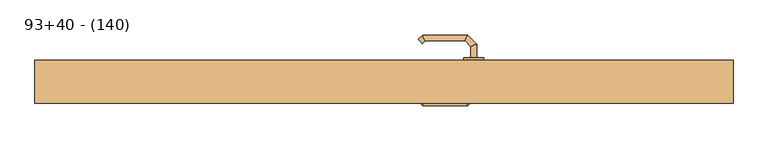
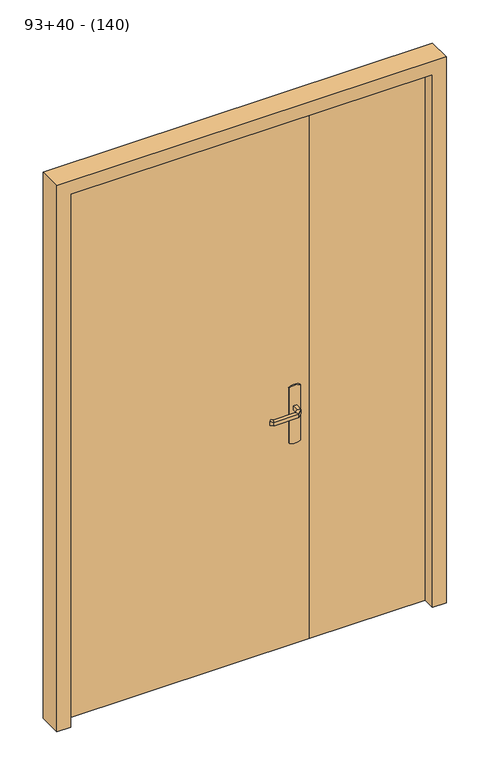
"""IFC4 building model written with IfcOpenShell, lengths in millimetres: door geometry, C&L Ext. Tiercée double vantaux : 93+40 - (140)."""

from ifc_helpers import new_model, si_unit, point, frame, frame_2d, origin, origin_with_axes, place, context, project, spatial, polyline, circle_curve, ellipse_curve, trimmed, segment, composite_curve, outline, extrude, faceted_brep, source, transform, mapped, element, save
from ifc_brep_helpers import plane_surface, cylinder_surface, advanced_brep


def door_93_40_140_18f7f8c6(model_context):
    return source(origin(), model_context, "Body", "SolidModel", [
        advanced_brep(
        [(174.0, 12.0, 893.0), (174.0, 12.0, 907.0), (186.0, 12.0, 907.0), (186.0, 12.0, 893.0), (174.0, -10.4852045, 893.0), (174.0, -10.4852045, 907.0), (186.0, -15.4557673, 907.0), (186.0, -15.4557673, 893.0), (162.5147186, -21.9704859, 893.0), (162.5147186, -21.9704859, 907.0), (167.4852814, -33.9704859, 907.0), (167.4852814, -33.9704859, 893.0), (82.4394977, -21.9704859, 893.0), (82.4394977, -21.9704859, 907.0), (77.468935, -33.9704859, 907.0), (77.468935, -33.9704859, 893.0), (77.1257892, -16.6567774, 893.0), (68.6405078, -25.1420588, 893.0), (68.6405078, -25.1420588, 907.0), (77.1257892, -16.6567774, 907.0)],
        [
            (0, 1),
            (1, 2, circle_curve(frame((180.0, 12.0, 886.9542278), z_axis=(0.0, 1.0, 0.0), x_axis=(1.0, 0.0, 0.0)), 20.9244589)),
            (2, 3),
            (3, 0, circle_curve(frame((180.0, 12.0, 913.0457722), z_axis=(0.0, 1.0, 0.0), x_axis=(1.0, 0.0, 0.0)), 20.9244589)),
            (0, 4),
            (4, 5),
            (5, 1),
            (5, 6, ellipse_curve(frame((180.0, -12.9704859, 886.9542278), z_axis=(0.3826834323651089, 0.9238795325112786, 0.0), x_axis=(-0.9238795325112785, 0.3826834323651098, 0.0)), 22.6484711, 20.9244589)),
            (6, 2),
            (6, 7),
            (7, 3),
            (7, 4, ellipse_curve(frame((180.0, -12.9704859, 913.0457722), z_axis=(0.3826834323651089, 0.9238795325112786, 0.0), x_axis=(-0.9238795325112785, 0.3826834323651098, 0.0)), 22.6484711, 20.9244589)),
            (4, 8),
            (8, 9),
            (9, 5),
            (9, 10, ellipse_curve(frame((165.0, -27.9704859, 886.9542278), z_axis=(0.9238795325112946, 0.38268343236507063, 0.0), x_axis=(-0.3826834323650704, 0.9238795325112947, 0.0)), 22.6484711, 20.9244589)),
            (10, 6),
            (10, 11),
            (11, 7),
            (11, 8, ellipse_curve(frame((165.0, -27.9704859, 913.0457722), z_axis=(0.9238795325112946, 0.38268343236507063, 0.0), x_axis=(-0.3826834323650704, 0.9238795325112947, 0.0)), 22.6484711, 20.9244589)),
            (8, 12),
            (12, 13),
            (13, 9),
            (13, 14, ellipse_curve(frame((79.9542163, -27.9704859, 886.9542278), z_axis=(0.9238795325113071, -0.38268343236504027, 0.0), x_axis=(0.38268343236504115, 0.9238795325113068, 0.0)), 22.6484711, 20.9244589)),
            (14, 10),
            (14, 15),
            (15, 11),
            (15, 12, ellipse_curve(frame((79.9542163, -27.9704859, 913.0457722), z_axis=(0.9238795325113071, -0.38268343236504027, 0.0), x_axis=(0.38268343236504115, 0.9238795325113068, 0.0)), 22.6484711, 20.9244589)),
            (16, 17, circle_curve(frame((72.8831485, -20.8994181, 913.0457722), z_axis=(-0.7071067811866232, 0.7071067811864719, 0.0), x_axis=(-0.7071067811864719, -0.7071067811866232, 0.0)), 20.9244589)),
            (17, 18),
            (18, 19, circle_curve(frame((72.8831485, -20.8994181, 886.9542278), z_axis=(-0.7071067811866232, 0.7071067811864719, 0.0), x_axis=(-0.7071067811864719, -0.7071067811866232, 0.0)), 20.9244589)),
            (19, 16),
            (12, 16),
            (19, 13),
            (18, 14),
            (17, 15),
        ],
        [
            plane_surface(frame((189.2195445, 12.0, 900.0), z_axis=(0.0, 1.0, 0.0), x_axis=(0.0, 0.0, 1.0))),
            plane_surface(frame((174.0, 12.0, 893.0), z_axis=(-1.0, 0.0, 0.0), x_axis=(0.0, -1.0, 0.0))),
            cylinder_surface(frame((180.0, 12.0, 886.9542278), z_axis=(0.0, 1.0, 0.0), x_axis=(1.0, 0.0, 0.0)), 20.9244589),
            plane_surface(frame((186.0, 12.0, 907.0), z_axis=(1.0, 0.0, 0.0), x_axis=(0.0, -1.0, 0.0))),
            cylinder_surface(frame((180.0, 12.0, 913.0457722), z_axis=(0.0, 1.0, 0.0), x_axis=(1.0, 0.0, 0.0)), 20.9244589),
            plane_surface(frame((174.0, -10.4852045, 893.0), z_axis=(-0.707106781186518, 0.707106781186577, 0.0), x_axis=(-0.707106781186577, -0.707106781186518, 0.0))),
            cylinder_surface(frame((180.0, -12.9704859, 886.9542278), z_axis=(0.7071067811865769, 0.7071067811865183, 0.0), x_axis=(0.7071067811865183, -0.7071067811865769, 0.0)), 20.9244589),
            plane_surface(frame((186.0, -15.4557673, 907.0), z_axis=(0.7071067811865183, -0.7071067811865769, 0.0), x_axis=(-0.7071067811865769, -0.7071067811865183, 0.0))),
            cylinder_surface(frame((180.0, -12.9704859, 913.0457722), z_axis=(0.7071067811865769, 0.7071067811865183, 0.0), x_axis=(0.7071067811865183, -0.7071067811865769, 0.0)), 20.9244589),
            plane_surface(frame((162.5147186, -21.9704859, 893.0), z_axis=(0.0, 1.0, 0.0), x_axis=(-1.0, 0.0, 0.0))),
            cylinder_surface(frame((165.0, -27.9704859, 886.9542278), z_axis=(1.0, 0.0, 0.0), x_axis=(0.0, -1.0, 0.0)), 20.9244589),
            plane_surface(frame((167.4852814, -33.9704859, 907.0), z_axis=(0.0, -1.0, 0.0), x_axis=(-1.0, 0.0, 0.0))),
            cylinder_surface(frame((165.0, -27.9704859, 913.0457722), z_axis=(1.0, 0.0, 0.0), x_axis=(0.0, -1.0, 0.0)), 20.9244589),
            plane_surface(frame((72.8831485, -20.8994181, 890.7804555), z_axis=(-0.7071067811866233, 0.7071067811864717, 0.0), x_axis=(-0.7071067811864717, -0.7071067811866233, 0.0))),
            plane_surface(frame((82.4394977, -21.9704859, 893.0), z_axis=(0.7071067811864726, 0.7071067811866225, 0.0), x_axis=(-0.7071067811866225, 0.7071067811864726, 0.0))),
            cylinder_surface(frame((79.9542163, -27.9704859, 886.9542278), z_axis=(0.7071067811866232, -0.7071067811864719, 0.0), x_axis=(-0.7071067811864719, -0.7071067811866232, 0.0)), 20.9244589),
            plane_surface(frame((77.468935, -33.9704859, 907.0), z_axis=(-0.7071067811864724, -0.7071067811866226, 0.0), x_axis=(-0.7071067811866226, 0.7071067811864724, 0.0))),
            cylinder_surface(frame((79.9542163, -27.9704859, 913.0457722), z_axis=(0.7071067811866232, -0.7071067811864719, 0.0), x_axis=(-0.7071067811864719, -0.7071067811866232, 0.0)), 20.9244589),
        ],
        [
            (0, [[1, 2, 3, 4]]),
            (1, [[-1, 5, 6, 7]]),
            (2, [[-2, -7, 8, 9]]),
            (3, [[-3, -9, 10, 11]]),
            (4, [[-4, -11, 12, -5]]),
            (5, [[-6, 13, 14, 15]]),
            (6, [[-8, -15, 16, 17]]),
            (7, [[-10, -17, 18, 19]]),
            (8, [[-12, -19, 20, -13]]),
            (9, [[-14, 21, 22, 23]]),
            (10, [[-16, -23, 24, 25]]),
            (11, [[-18, -25, 26, 27]]),
            (12, [[-20, -27, 28, -21]]),
            (13, [[29, 30, 31, 32]]),
            (14, [[-22, 33, -32, 34]]),
            (15, [[-24, -34, -31, 35]]),
            (16, [[-26, -35, -30, 36]]),
            (17, [[-28, -36, -29, -33]]),
        ],
    ),
        advanced_brep(
        [(186.0, 62.0, 907.0), (174.0, 62.0, 907.0), (174.0, 62.0, 893.0), (186.0, 62.0, 893.0), (186.0, 89.6509507, 907.0), (174.0, 84.680388, 907.0), (174.0, 84.680388, 893.0), (186.0, 89.6509507, 893.0), (167.62279, 108.0281607, 907.0), (162.6522273, 96.0281607, 907.0), (162.6522273, 96.0281607, 893.0), (167.62279, 108.0281607, 893.0), (77.496078, 108.0281607, 907.0), (82.4666408, 96.0281607, 907.0), (82.4666408, 96.0281607, 893.0), (77.496078, 108.0281607, 893.0), (68.6676509, 99.1997336, 907.0), (68.6676509, 99.1997336, 893.0), (77.1529323, 90.7144522, 893.0), (77.1529323, 90.7144522, 907.0)],
        [
            (0, 1, circle_curve(frame((180.0, 62.0, 886.9542278), z_axis=(0.0, -1.0, 0.0), x_axis=(-1.0, 0.0, 0.0)), 20.9244589)),
            (1, 2),
            (2, 3, circle_curve(frame((180.0, 62.0, 913.0457722), z_axis=(0.0, -1.0, 0.0), x_axis=(-1.0, 0.0, 0.0)), 20.9244589)),
            (3, 0),
            (0, 4),
            (4, 5, ellipse_curve(frame((180.0, 87.1656693, 886.9542278), z_axis=(0.3826834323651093, -0.9238795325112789, 0.0), x_axis=(-0.9238795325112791, -0.38268343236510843, 0.0)), 22.6484711, 20.9244589)),
            (5, 1),
            (5, 6),
            (6, 2),
            (6, 7, ellipse_curve(frame((180.0, 87.1656693, 913.0457722), z_axis=(0.3826834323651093, -0.9238795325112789, 0.0), x_axis=(-0.9238795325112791, -0.38268343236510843, 0.0)), 22.6484711, 20.9244589)),
            (7, 3),
            (7, 4),
            (4, 8),
            (8, 9, ellipse_curve(frame((165.1375086, 102.0281607, 886.9542278), z_axis=(0.9238795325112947, -0.38268343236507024, 0.0), x_axis=(-0.3826834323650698, -0.9238795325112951, 0.0)), 22.6484711, 20.9244589)),
            (9, 5),
            (9, 10),
            (10, 6),
            (10, 11, ellipse_curve(frame((165.1375086, 102.0281607, 913.0457722), z_axis=(0.9238795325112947, -0.38268343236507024, 0.0), x_axis=(-0.3826834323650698, -0.9238795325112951, 0.0)), 22.6484711, 20.9244589)),
            (11, 7),
            (11, 8),
            (8, 12),
            (12, 13, ellipse_curve(frame((79.9813594, 102.0281607, 886.9542278), z_axis=(0.9238795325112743, 0.3826834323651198, 0.0), x_axis=(0.38268343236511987, -0.9238795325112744, 0.0)), 22.6484711, 20.9244589)),
            (13, 9),
            (13, 14),
            (14, 10),
            (14, 15, ellipse_curve(frame((79.9813594, 102.0281607, 913.0457722), z_axis=(0.9238795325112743, 0.3826834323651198, 0.0), x_axis=(0.38268343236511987, -0.9238795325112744, 0.0)), 22.6484711, 20.9244589)),
            (15, 11),
            (15, 12),
            (16, 17),
            (17, 18, circle_curve(frame((72.9102916, 94.9570929, 913.0457722), z_axis=(-0.7071067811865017, -0.7071067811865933, 0.0), x_axis=(0.7071067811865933, -0.7071067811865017, 0.0)), 20.9244589)),
            (18, 19),
            (19, 16, circle_curve(frame((72.9102916, 94.9570929, 886.9542278), z_axis=(-0.7071067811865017, -0.7071067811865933, 0.0), x_axis=(0.7071067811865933, -0.7071067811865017, 0.0)), 20.9244589)),
            (12, 16),
            (19, 13),
            (18, 14),
            (17, 15),
        ],
        [
            plane_surface(frame((189.2195445, 62.0, 900.0), z_axis=(0.0, -1.0, 0.0), x_axis=(0.0, 0.0, -1.0))),
            cylinder_surface(frame((180.0, 62.0, 886.9542278), z_axis=(0.0, -1.0, 0.0), x_axis=(-1.0, 0.0, 0.0)), 20.9244589),
            plane_surface(frame((174.0, 62.0, 907.0), z_axis=(-1.0, 0.0, 0.0), x_axis=(0.0, 1.0, 0.0))),
            cylinder_surface(frame((180.0, 62.0, 913.0457722), z_axis=(0.0, -1.0, 0.0), x_axis=(-1.0, 0.0, 0.0)), 20.9244589),
            plane_surface(frame((186.0, 62.0, 893.0), z_axis=(1.0, 0.0, 0.0), x_axis=(0.0, 1.0, 0.0))),
            cylinder_surface(frame((180.0, 87.1656693, 886.9542278), z_axis=(0.7071067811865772, -0.7071067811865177, 0.0), x_axis=(-0.7071067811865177, -0.7071067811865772, 0.0)), 20.9244589),
            plane_surface(frame((174.0, 84.680388, 907.0), z_axis=(-0.7071067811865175, -0.7071067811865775, 0.0), x_axis=(-0.7071067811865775, 0.7071067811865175, 0.0))),
            cylinder_surface(frame((180.0, 87.1656693, 913.0457722), z_axis=(0.7071067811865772, -0.7071067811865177, 0.0), x_axis=(-0.7071067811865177, -0.7071067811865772, 0.0)), 20.9244589),
            plane_surface(frame((186.0, 89.6509507, 893.0), z_axis=(0.7071067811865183, 0.7071067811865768, 0.0), x_axis=(-0.7071067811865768, 0.7071067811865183, 0.0))),
            cylinder_surface(frame((165.1375086, 102.0281607, 886.9542278), z_axis=(1.0, 0.0, 0.0), x_axis=(0.0, -1.0, 0.0)), 20.9244589),
            plane_surface(frame((162.6522273, 96.0281607, 907.0), z_axis=(0.0, -1.0, 0.0), x_axis=(-1.0, 0.0, 0.0))),
            cylinder_surface(frame((165.1375086, 102.0281607, 913.0457722), z_axis=(1.0, 0.0, 0.0), x_axis=(0.0, -1.0, 0.0)), 20.9244589),
            plane_surface(frame((167.62279, 108.0281607, 893.0), z_axis=(0.0, 1.0, 0.0), x_axis=(-1.0, 0.0, 0.0))),
            plane_surface(frame((72.9102916, 94.9570929, 909.2195445), z_axis=(-0.7071067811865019, -0.7071067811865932, 0.0), x_axis=(-0.7071067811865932, 0.7071067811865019, 0.0))),
            cylinder_surface(frame((79.9813594, 102.0281607, 886.9542278), z_axis=(0.7071067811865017, 0.7071067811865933, 0.0), x_axis=(0.7071067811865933, -0.7071067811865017, 0.0)), 20.9244589),
            plane_surface(frame((82.4666408, 96.0281607, 907.0), z_axis=(0.7071067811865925, -0.7071067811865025, 0.0), x_axis=(-0.7071067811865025, -0.7071067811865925, 0.0))),
            cylinder_surface(frame((79.9813594, 102.0281607, 913.0457722), z_axis=(0.7071067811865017, 0.7071067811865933, 0.0), x_axis=(0.7071067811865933, -0.7071067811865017, 0.0)), 20.9244589),
            plane_surface(frame((77.496078, 108.0281607, 893.0), z_axis=(-0.707106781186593, 0.7071067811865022, 0.0), x_axis=(-0.7071067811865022, -0.707106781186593, 0.0))),
        ],
        [
            (0, [[1, 2, 3, 4]]),
            (1, [[-1, 5, 6, 7]]),
            (2, [[-2, -7, 8, 9]]),
            (3, [[-3, -9, 10, 11]]),
            (4, [[-4, -11, 12, -5]]),
            (5, [[-6, 13, 14, 15]]),
            (6, [[-8, -15, 16, 17]]),
            (7, [[-10, -17, 18, 19]]),
            (8, [[-12, -19, 20, -13]]),
            (9, [[-14, 21, 22, 23]]),
            (10, [[-16, -23, 24, 25]]),
            (11, [[-18, -25, 26, 27]]),
            (12, [[-20, -27, 28, -21]]),
            (13, [[29, 30, 31, 32]]),
            (14, [[-22, 33, -32, 34]]),
            (15, [[-24, -34, -31, 35]]),
            (16, [[-26, -35, -30, 36]]),
            (17, [[-28, -36, -29, -33]]),
        ],
    ),
        extrude(outline(composite_curve([segment(polyline([(980.0, 160.0), (770.0, 160.0)]), True, "CONTINUOUS"), segment(trimmed(circle_curve(frame_2d((804.6410162, 180.0)), 40.0), [point((770.0, 160.0))], [point((770.0, 200.0))], False, "CARTESIAN"), True, "CONTINUOUS"), segment(polyline([(770.0, 200.0), (980.0, 200.0)]), True, "CONTINUOUS"), segment(trimmed(circle_curve(frame_2d((945.3589838, 180.0)), 40.0), [point((980.0, 200.0))], [point((980.0, 160.0))], False, "CARTESIAN"), True, "CONTINUOUS")], self_intersect=False)), frame((0.0, 12.0, 0.0), z_axis=(0.0, 1.0, 0.0), x_axis=(0.0, 0.0, 1.0)), (0.0, 0.0, 1.0), 5.0),
        extrude(outline(composite_curve([segment(polyline([(770.0, 200.0), (980.0, 200.0)]), True, "CONTINUOUS"), segment(trimmed(circle_curve(frame_2d((945.3589838, 180.0)), 40.0), [point((980.0, 200.0))], [point((980.0, 160.0))], False, "CARTESIAN"), True, "CONTINUOUS"), segment(polyline([(980.0, 160.0), (770.0, 160.0)]), True, "CONTINUOUS"), segment(trimmed(circle_curve(frame_2d((804.6410162, 180.0)), 40.0), [point((770.0, 160.0))], [point((770.0, 200.0))], False, "CARTESIAN"), True, "CONTINUOUS")], self_intersect=False)), frame((0.0, 57.0, 0.0), z_axis=(0.0, 1.0, 0.0), x_axis=(0.0, 0.0, 1.0)), (0.0, 0.0, 1.0), 5.0),
        faceted_brep([(-700.0, -29.0, 0.0), (-700.0, 57.0, 0.0), (-665.0, 57.0, 0.0), (-665.0, 17.0, 0.0), (-650.0, 17.0, 0.0), (-650.0, -29.0, 0.0), (-650.0, -29.0, 2025.0), (650.0, -29.0, 2025.0), (650.0, -29.0, 0.0), (700.0, -29.0, 0.0), (700.0, -29.0, 2075.0), (-700.0, -29.0, 2075.0), (-650.0, 17.0, 2025.0), (-665.0, 17.0, 2040.0), (665.0, 17.0, 2040.0), (665.0, 17.0, 0.0), (650.0, 17.0, 0.0), (650.0, 17.0, 2025.0), (-665.0, 57.0, 2040.0), (-700.0, 57.0, 2075.0), (700.0, 57.0, 2075.0), (700.0, 57.0, 0.0), (665.0, 57.0, 0.0), (665.0, 57.0, 2040.0)], [[[0, 1, 2, 3, 4, 5]], [[5, 6, 7, 8, 9, 10, 11, 0]], [[4, 12, 6, 5]], [[3, 13, 14, 15, 16, 17, 12, 4]], [[2, 18, 13, 3]], [[1, 19, 20, 21, 22, 23, 18, 2]], [[0, 11, 19, 1]], [[10, 9, 21, 20]], [[9, 8, 16, 15, 22, 21]], [[17, 16, 8, 7]], [[23, 22, 15, 14]], [[12, 17, 7, 6]], [[18, 23, 14, 13]], [[11, 10, 20, 19]]]),
        extrude(outline(polyline([(665.0, 57.0), (665.0, 17.0), (235.0, 17.0), (235.0, 57.0), (665.0, 57.0)])), origin_with_axes(), (0.0, 0.0, 1.0), 2040.0),
        extrude(outline(polyline([(235.0, 57.0), (235.0, 17.0), (-665.0, 17.0), (-665.0, 57.0), (235.0, 57.0)])), origin_with_axes(), (0.0, 0.0, 1.0), 2040.0),
    ])


if __name__ == "__main__":
    model = new_model("IFC4")
    model_context = context("Model", 3, world=origin())
    ifc_project = project(units=[si_unit("LENGTHUNIT", "METRE", prefix="MILLI")], contexts=[model_context])
    site = spatial("IfcSite", under=ifc_project)
    building = spatial("IfcBuilding", under=site)
    placement = place(None, origin())
    door_93_40_140_shape = door_93_40_140_18f7f8c6(model_context)
    element("IfcDoor", 1, ObjectType="C&L Ext. Tiercée double vantaux : 93+40 - (140)", at=placement, inside=building, context=model_context, shape_type="MappedRepresentation", body=[
        mapped(door_93_40_140_shape, transform((0.0, 0.0, 0.0), x_axis=(1.0, 0.0, 0.0), y_axis=(0.0, 1.0, 0.0), z_axis=(0.0, 0.0, 1.0))),
    ])
    save(model, "model.ifc")
